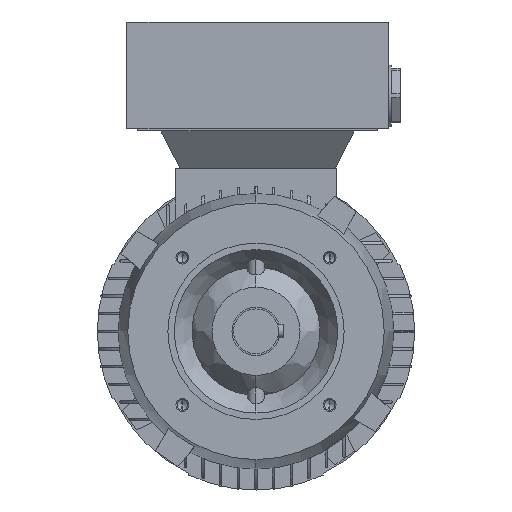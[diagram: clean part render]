
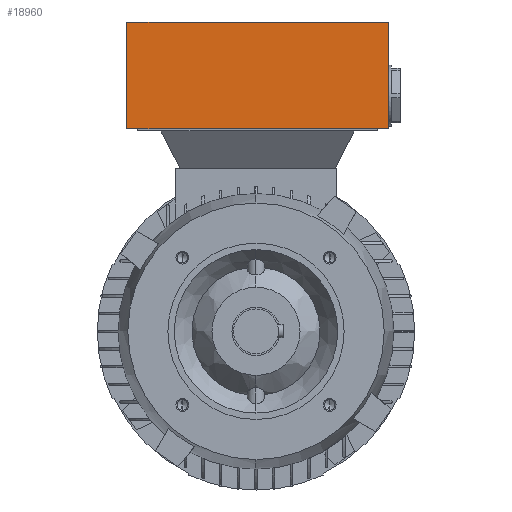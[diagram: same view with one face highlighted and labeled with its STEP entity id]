
A CAD part, left-side view. The second image highlights one B-rep face of the part: STEP entity #18960.
In plain terms, the highlighted planar face has unit normal (-1, 0, 0).
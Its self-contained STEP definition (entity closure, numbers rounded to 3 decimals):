
#112 = CARTESIAN_POINT ( 'NONE',  ( -7., -1., 126.5 ) ) ;
#113 = DIRECTION ( 'NONE',  ( 0., 1., 0. ) ) ;
#175 = CARTESIAN_POINT ( 'NONE',  ( -7., 80.5, 159.75 ) ) ;
#177 = DIRECTION ( 'NONE',  ( 0., 0., -1. ) ) ;
#236 = CARTESIAN_POINT ( 'NONE',  ( -7., -82.5, 159.75 ) ) ;
#237 = DIRECTION ( 'NONE',  ( 0., 0., -1. ) ) ;
#2246 = FACE_OUTER_BOUND ( 'NONE', #17117, .T. ) ;
#2673 = CARTESIAN_POINT ( 'NONE',  ( -7., -1., 193. ) ) ;
#2675 = DIRECTION ( 'NONE',  ( 0., -1., 0. ) ) ;
#2832 = PLANE ( 'NONE',  #22888 ) ;
#2834 = CARTESIAN_POINT ( 'NONE',  ( -7., -1., 159.75 ) ) ;
#2837 = DIRECTION ( 'NONE',  ( 1., 0., 0. ) ) ;
#2838 = DIRECTION ( 'NONE',  ( 0., 0., -1. ) ) ;
#9012 = ORIENTED_EDGE ( 'NONE', *, *, #15719, .F. ) ;
#9014 = ORIENTED_EDGE ( 'NONE', *, *, #12596, .F. ) ;
#9016 = ORIENTED_EDGE ( 'NONE', *, *, #15702, .T. ) ;
#9018 = ORIENTED_EDGE ( 'NONE', *, *, #15687, .F. ) ;
#12596 = EDGE_CURVE ( 'NONE', #16990, #16926, #16558, .T. ) ;
#13086 = CARTESIAN_POINT ( 'NONE',  ( -7., -82.5, 193. ) ) ;
#13121 = CARTESIAN_POINT ( 'NONE',  ( -7., 80.5, 126.5 ) ) ;
#13150 = CARTESIAN_POINT ( 'NONE',  ( -7., 80.5, 193. ) ) ;
#13808 = LINE ( 'NONE', #112, #13810 ) ;
#13810 = VECTOR ( 'NONE', #113, 1000. ) ;
#13831 = LINE ( 'NONE', #175, #13834 ) ;
#13834 = VECTOR ( 'NONE', #177, 1000. ) ;
#13859 = LINE ( 'NONE', #236, #13862 ) ;
#13862 = VECTOR ( 'NONE', #237, 1000. ) ;
#15687 = EDGE_CURVE ( 'NONE', #17029, #16961, #13808, .T. ) ;
#15702 = EDGE_CURVE ( 'NONE', #16990, #16961, #13831, .T. ) ;
#15719 = EDGE_CURVE ( 'NONE', #16926, #17029, #13859, .T. ) ;
#16558 = LINE ( 'NONE', #2673, #16561 ) ;
#16561 = VECTOR ( 'NONE', #2675, 1000. ) ;
#16926 = VERTEX_POINT ( 'NONE', #13086 ) ;
#16961 = VERTEX_POINT ( 'NONE', #13121 ) ;
#16990 = VERTEX_POINT ( 'NONE', #13150 ) ;
#17029 = VERTEX_POINT ( 'NONE', #17896 ) ;
#17117 = EDGE_LOOP ( 'NONE', ( #9012, #9014, #9016, #9018 ) ) ;
#17896 = CARTESIAN_POINT ( 'NONE',  ( -7., -82.5, 126.5 ) ) ;
#18960 = ADVANCED_FACE ( 'NONE', ( #2246 ), #2832, .F. ) ;
#22888 = AXIS2_PLACEMENT_3D ( 'NONE', #2834, #2837, #2838 ) ;
